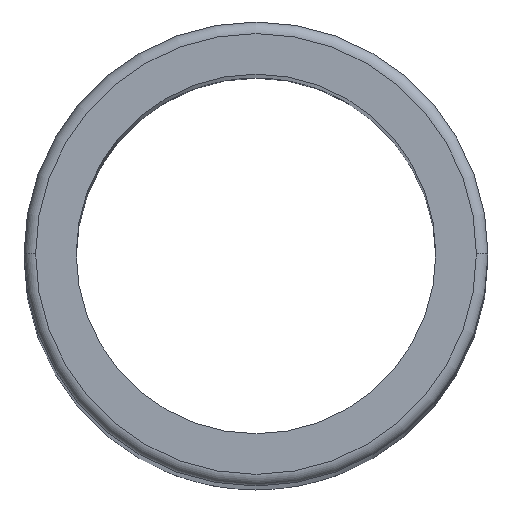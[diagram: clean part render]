
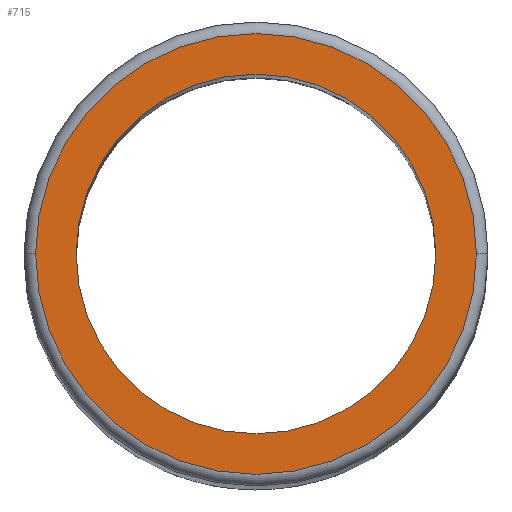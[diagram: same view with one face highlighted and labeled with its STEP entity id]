
A CAD part, top view. The second image highlights one B-rep face of the part: STEP entity #715.
In plain terms, the highlighted planar face has unit normal (0, 0, 1).
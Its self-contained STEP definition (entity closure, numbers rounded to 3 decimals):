
#17 = DIRECTION ( 'NONE',  ( 1., 0., 0. ) ) ;
#26 = EDGE_LOOP ( 'NONE', ( #95, #122 ) ) ;
#41 = CARTESIAN_POINT ( 'NONE',  ( 7.75, 0., 100. ) ) ;
#49 = AXIS2_PLACEMENT_3D ( 'NONE', #370, #591, #478 ) ;
#70 = ORIENTED_EDGE ( 'NONE', *, *, #675, .T. ) ;
#71 = EDGE_CURVE ( 'NONE', #616, #356, #722, .T. ) ;
#77 = CIRCLE ( 'NONE', #600, 7.75 ) ;
#78 = DIRECTION ( 'NONE',  ( 1., 0., 0. ) ) ;
#92 = EDGE_CURVE ( 'NONE', #407, #329, #129, .T. ) ;
#95 = ORIENTED_EDGE ( 'NONE', *, *, #696, .F. ) ;
#97 = DIRECTION ( 'NONE',  ( 1., 0., 0. ) ) ;
#106 = CARTESIAN_POINT ( 'NONE',  ( -9.5, 0., 100. ) ) ;
#111 = FACE_OUTER_BOUND ( 'NONE', #388, .T. ) ;
#122 = ORIENTED_EDGE ( 'NONE', *, *, #71, .F. ) ;
#129 = CIRCLE ( 'NONE', #244, 9.5 ) ;
#161 = AXIS2_PLACEMENT_3D ( 'NONE', #428, #376, #707 ) ;
#244 = AXIS2_PLACEMENT_3D ( 'NONE', #480, #594, #17 ) ;
#260 = AXIS2_PLACEMENT_3D ( 'NONE', #331, #713, #97 ) ;
#294 = FACE_BOUND ( 'NONE', #26, .T. ) ;
#329 = VERTEX_POINT ( 'NONE', #439 ) ;
#331 = CARTESIAN_POINT ( 'NONE',  ( 0., 0., 100. ) ) ;
#354 = CARTESIAN_POINT ( 'NONE',  ( -7.75, 0., 100. ) ) ;
#356 = VERTEX_POINT ( 'NONE', #41 ) ;
#370 = CARTESIAN_POINT ( 'NONE',  ( 0., 0., 100. ) ) ;
#373 = DIRECTION ( 'NONE',  ( 0., 0., 1. ) ) ;
#376 = DIRECTION ( 'NONE',  ( 0., 0., 1. ) ) ;
#388 = EDGE_LOOP ( 'NONE', ( #70, #630 ) ) ;
#407 = VERTEX_POINT ( 'NONE', #106 ) ;
#428 = CARTESIAN_POINT ( 'NONE',  ( 0., 0., 100. ) ) ;
#439 = CARTESIAN_POINT ( 'NONE',  ( 9.5, 0., 100. ) ) ;
#478 = DIRECTION ( 'NONE',  ( 1., 0., 0. ) ) ;
#480 = CARTESIAN_POINT ( 'NONE',  ( 0., 0., 100. ) ) ;
#591 = DIRECTION ( 'NONE',  ( 0., 0., 1. ) ) ;
#594 = DIRECTION ( 'NONE',  ( 0., 0., 1. ) ) ;
#595 = CARTESIAN_POINT ( 'NONE',  ( 0., 0., 100. ) ) ;
#600 = AXIS2_PLACEMENT_3D ( 'NONE', #595, #373, #78 ) ;
#616 = VERTEX_POINT ( 'NONE', #354 ) ;
#630 = ORIENTED_EDGE ( 'NONE', *, *, #92, .T. ) ;
#667 = PLANE ( 'NONE',  #260 ) ;
#675 = EDGE_CURVE ( 'NONE', #329, #407, #701, .T. ) ;
#696 = EDGE_CURVE ( 'NONE', #356, #616, #77, .T. ) ;
#701 = CIRCLE ( 'NONE', #161, 9.5 ) ;
#707 = DIRECTION ( 'NONE',  ( 1., 0., 0. ) ) ;
#713 = DIRECTION ( 'NONE',  ( 0., 0., 1. ) ) ;
#715 = ADVANCED_FACE ( 'NONE', ( #294, #111 ), #667, .T. ) ;
#722 = CIRCLE ( 'NONE', #49, 7.75 ) ;
